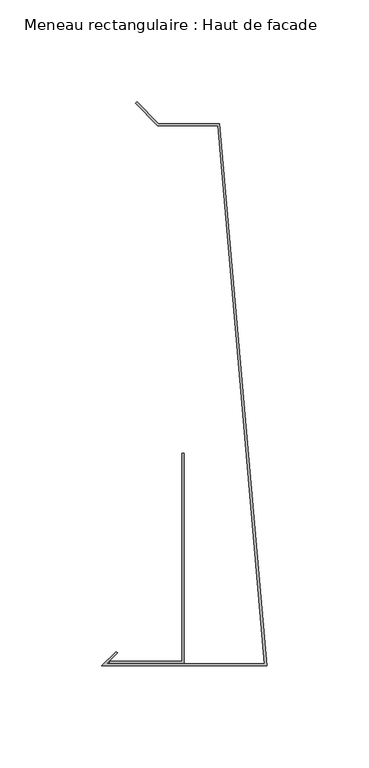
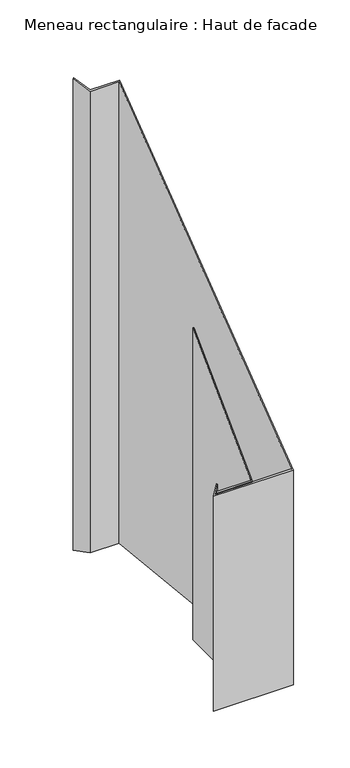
"""IFC4 building model written with IfcOpenShell, lengths in millimetres: member geometry, Meneau rectangulaire : Haut de facade."""

from ifc_helpers import new_model, si_unit, origin, place, context, project, spatial, faceted_brep, source, transform, mapped, element, save


def meneau_rectangulaire_haut_de_facade_12411631(model_context):
    return source(origin(), model_context, "Body", "Brep", [
        faceted_brep([(-24.0647895, 160.703755, -335.0), (-53.5626719, 160.703755, -335.0), (-64.4621669, 171.6032499, -335.0), (-63.7550601, 172.3103567, -335.0), (-53.1484584, 161.703755, -335.0), (-23.1484584, 161.703755, -335.0), (0.0, -104.2, -335.0), (-81.0, -104.2, -335.0), (-73.9289322, -97.1289322, -335.0), (-73.2218254, -97.836039, -335.0), (-78.5857864, -103.2, -335.0), (-1.0913085, -103.2, -335.0), (-1.0913085, -103.2, -103.2), (-24.0647895, 160.703755, 160.703755), (-78.5857864, -103.2, -103.2), (-73.2218254, -97.836039, -97.836039), (-73.9289322, -97.1289322, -97.1289322), (-81.0, -104.2, -104.2), (0.0, -104.2, -104.2), (-23.1484584, 161.703755, 161.703755), (-53.1484584, 161.703755, 161.703755), (-63.7550601, 172.3103567, 172.3103567), (-64.4621669, 171.6032499, 171.6032499), (-53.5626719, 160.703755, 160.703755)], [[[0, 1, 2, 3, 4, 5, 6, 7, 8, 9, 10, 11]], [[12, 13, 0, 11]], [[14, 12, 11, 10]], [[15, 14, 10, 9]], [[16, 15, 9, 8]], [[17, 16, 8, 7]], [[18, 17, 7, 6]], [[19, 18, 6, 5]], [[20, 19, 5, 4]], [[21, 20, 4, 3]], [[22, 21, 3, 2]], [[23, 22, 2, 1]], [[13, 23, 1, 0]], [[13, 12, 14, 15, 16, 17, 18, 19, 20, 21, 22, 23]]]),
        faceted_brep([(-40.5477541, -102.9846816, -335.0), (-77.0752814, -102.9846816, -335.0), (-77.0752814, -101.9846816, -335.0), (-41.5477541, -101.9846816, -335.0), (-41.5477541, -0.0384227, -335.0), (-40.5477541, -0.0384227, -335.0), (-40.5477541, -0.0384227, -0.0384227), (-40.5477541, -102.9846816, -102.9846816), (-41.5477541, -0.0384227, -0.0384227), (-41.5477541, -101.9846816, -101.9846816), (-77.0752814, -101.9846816, -101.9846816), (-77.0752814, -102.9846816, -102.9846816)], [[[0, 1, 2, 3, 4, 5]], [[6, 7, 0, 5]], [[8, 6, 5, 4]], [[9, 8, 4, 3]], [[10, 9, 3, 2]], [[11, 10, 2, 1]], [[7, 11, 1, 0]], [[7, 6, 8, 9, 10, 11]]]),
    ])


if __name__ == "__main__":
    model = new_model("IFC4")
    model_context = context("Model", 3, world=origin())
    ifc_project = project(units=[si_unit("LENGTHUNIT", "METRE", prefix="MILLI")], contexts=[model_context])
    site = spatial("IfcSite", under=ifc_project)
    building = spatial("IfcBuilding", under=site)
    placement = place(None, origin())
    meneau_rectangulaire_haut_de_facade_shape = meneau_rectangulaire_haut_de_facade_12411631(model_context)
    element("IfcMember", 1, ObjectType="Meneau rectangulaire : Haut de facade", at=placement, inside=building, context=model_context, shape_type="MappedRepresentation", body=[
        mapped(meneau_rectangulaire_haut_de_facade_shape, transform((0.0, 0.0, 0.0), x_axis=(1.0, 0.0, 0.0), y_axis=(0.0, 1.0, 0.0), z_axis=(0.0, 0.0, 1.0))),
    ])
    save(model, "model.ifc")
